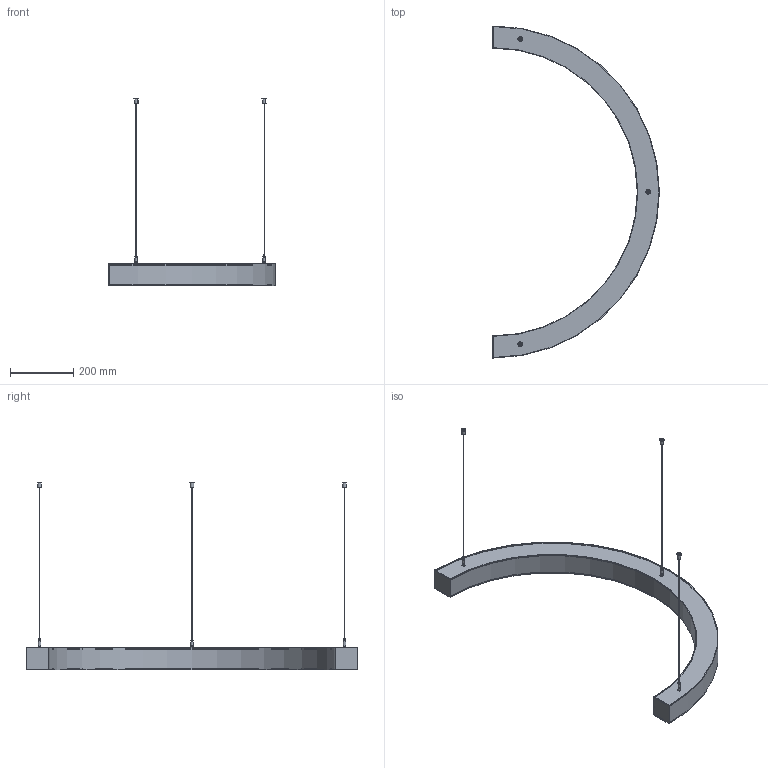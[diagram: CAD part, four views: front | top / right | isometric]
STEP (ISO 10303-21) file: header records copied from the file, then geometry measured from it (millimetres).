
FILE_DESCRIPTION(('STEP AP203'), '1');
FILE_NAME('Half RING 1050mm', '', ('UNSPECIFIED'), ('UNSPECIFIED'), 'C3D Converter', 'C3D Toolkit', '');
FILE_SCHEMA(('CONFIG_CONTROL_DESIGN'));
Length unit declared in the file: millimetre
Assembly tree (13 placements, depth 4):
  (unnamed)
    (unnamed)
    (unnamed)
    (unnamed)
    (unnamed)  x2
    (unnamed)  x3
      (unnamed)
        (unnamed)
        (unnamed)
      (unnamed)
      (unnamed)
Bounding box: 527.5 x 1050 x 593 mm (x, y, z)
Volume: 705948.5 mm3; surface area: 953921.5 mm2
Topology: 18 solids, 18 shells, 163 faces, 315 edges, 209 vertices
Faces by surface type: plane 111, cylinder 49, cone 3
Full cylindrical faces by diameter (mm): 2 x3, 2.5 x3, 4 x3, 4.5 x3, 4.7 x3, 5 x6, 6 x3, 8.8 x3, 9 x6, 11 x3, 15 x3
Entity records: 2699 total; most frequent: DIRECTION 380, CARTESIAN_POINT 333, ORIENTED_EDGE 278, AXIS2_PLACEMENT_3D 150, EDGE_CURVE 139, EDGE_LOOP 108, VERTEX_POINT 103, LINE 80
